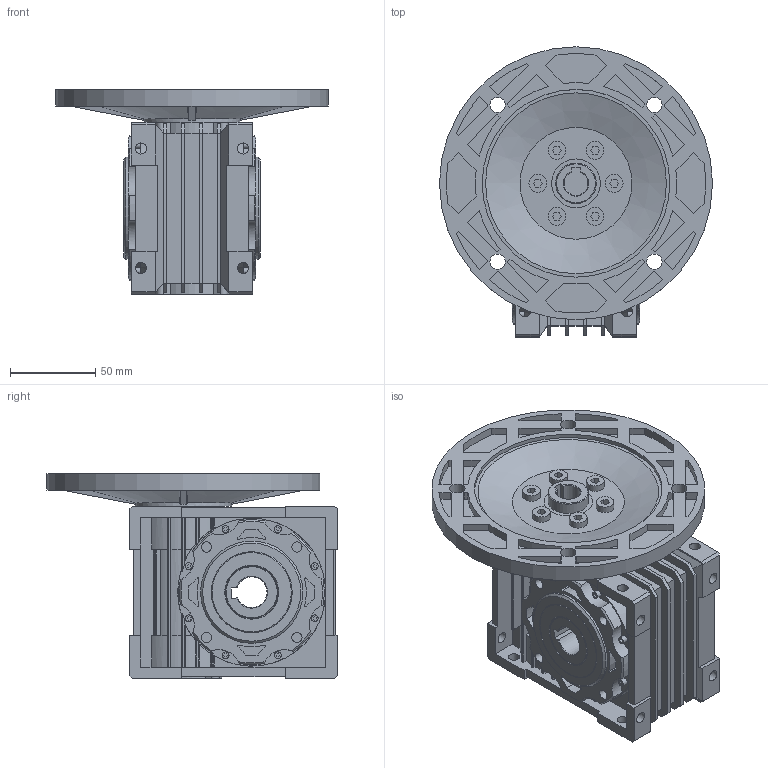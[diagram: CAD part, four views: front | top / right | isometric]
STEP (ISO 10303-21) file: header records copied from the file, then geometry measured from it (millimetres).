
FILE_DESCRIPTION(/* description */ (''),/* implementation_level */ '2;1');
FILE_NAME(/* name */ 'Z:\동력 3D 파일\PCMRV040_71B5_3D.stp',/* time_stamp */ '2021-12-01T16:38:42+09:00',/* author */ ('jaebok'),/* organization */ (''),/* preprocessor_version */ 'ST-DEVELOPER v18.1',/* originating_system */ 'Autodesk Inventor 2022',/* authorisation */ '');
FILE_SCHEMA (('AUTOMOTIVE_DESIGN { 1 0 10303 214 3 1 1 }'));
Length unit declared in the file: millimetre
Products named in the file (1): 부품42
Bounding box: 160 x 170 x 120 mm (x, y, z)
Volume: 867501.1 mm3; surface area: 152392 mm2
Topology: 1 solids, 6 shells, 902 faces, 2342 edges, 1548 vertices
Faces by surface type: plane 566, cylinder 303, cone 33
Full cylindrical faces by diameter (mm): 2.933 x8, 4 x16, 6 x8, 6.5 x16, 9 x4, 10.448 x6, 23.8 x1, 28.56 x1, 30.6 x2, 38.1 x2, 39.1 x2, 47.5 x2, 56.5 x1, 60 x2, 110 x1, 160 x1
Entity records: 28965 total; most frequent: CARTESIAN_POINT 5328, DIRECTION 4705, ORIENTED_EDGE 4684, EDGE_CURVE 2342, AXIS2_PLACEMENT_3D 1571, LINE 1563, VECTOR 1563, VERTEX_POINT 1548
